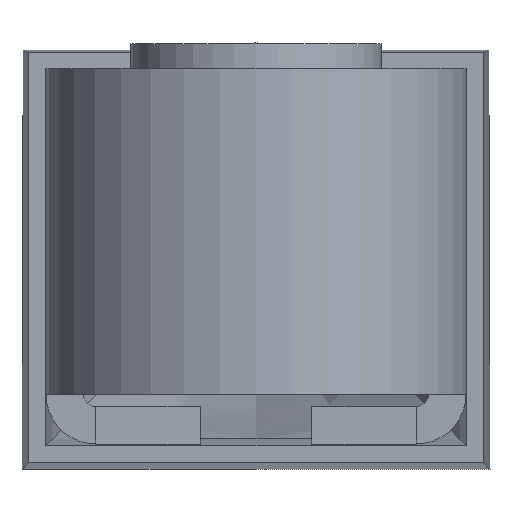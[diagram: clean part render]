
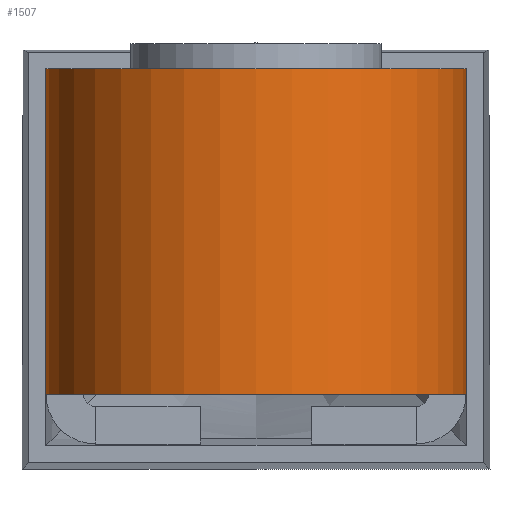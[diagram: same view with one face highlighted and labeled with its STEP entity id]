
A CAD part, front view. The second image highlights one B-rep face of the part: STEP entity #1507.
In plain terms, the highlighted cylindrical face has radius 2.134 mm (diameter 4.267 mm), a partial arc.
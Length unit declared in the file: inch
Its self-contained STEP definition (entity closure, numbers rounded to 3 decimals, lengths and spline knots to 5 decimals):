
#777=CARTESIAN_POINT('',(0.,0.06,0.));
#778=DIRECTION('',(0.,1.,0.));
#779=DIRECTION('',(-1.,0.,0.));
#780=AXIS2_PLACEMENT_3D('',#777,#778,#779);
#882=CARTESIAN_POINT('',(0.,0.19,0.));
#883=DIRECTION('',(0.,1.,0.));
#884=DIRECTION('',(-1.,0.,0.));
#885=AXIS2_PLACEMENT_3D('',#882,#883,#884);
#909=DIRECTION('',(0.,1.,0.));
#910=VECTOR('',#909,0.13);
#911=CARTESIAN_POINT('',(0.084,0.06,0.));
#912=LINE('',#911,#910);
#950=DIRECTION('',(0.,1.,0.));
#951=VECTOR('',#950,0.13);
#952=CARTESIAN_POINT('',(-0.084,0.06,0.));
#953=LINE('',#952,#951);
#994=CARTESIAN_POINT('',(-0.084,0.19,0.));
#995=VERTEX_POINT('',#994);
#996=CARTESIAN_POINT('',(0.084,0.19,0.));
#997=VERTEX_POINT('',#996);
#1002=CARTESIAN_POINT('',(-0.084,0.06,0.));
#1003=VERTEX_POINT('',#1002);
#1004=CARTESIAN_POINT('',(0.084,0.06,0.));
#1005=VERTEX_POINT('',#1004);
#1496=CARTESIAN_POINT('',(0.,0.,0.));
#1497=DIRECTION('',(0.,1.,0.));
#1498=DIRECTION('',(-1.,0.,0.));
#1499=AXIS2_PLACEMENT_3D('',#1496,#1497,#1498);
#1500=CYLINDRICAL_SURFACE('',#1499,0.084);
#1501=ORIENTED_EDGE('',*,*,#1202,.F.);
#1502=ORIENTED_EDGE('',*,*,#1375,.T.);
#1503=ORIENTED_EDGE('',*,*,#1389,.T.);
#1504=ORIENTED_EDGE('',*,*,#1410,.F.);
#1505=EDGE_LOOP('',(#1501,#1502,#1503,#1504));
#1506=FACE_OUTER_BOUND('',#1505,.F.);
#1507=ADVANCED_FACE('',(#1506),#1500,.T.);
#781=CIRCLE('',#780,0.084);
#886=CIRCLE('',#885,0.084);
#1202=EDGE_CURVE('',#1003,#1005,#781,.T.);
#1375=EDGE_CURVE('',#1003,#995,#953,.T.);
#1389=EDGE_CURVE('',#995,#997,#886,.T.);
#1410=EDGE_CURVE('',#1005,#997,#912,.T.);
